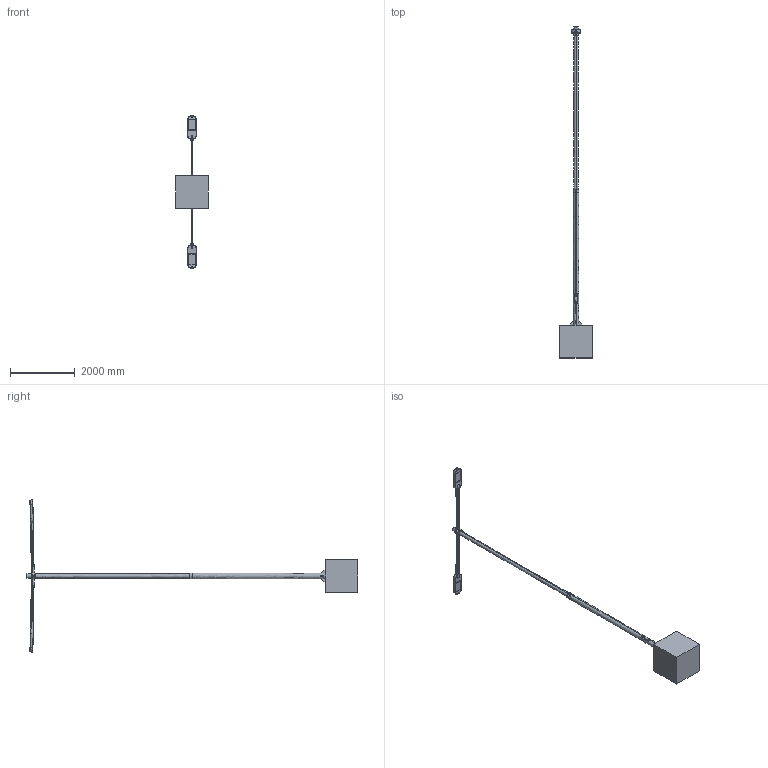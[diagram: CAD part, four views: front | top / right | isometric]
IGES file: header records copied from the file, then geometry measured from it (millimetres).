
Start section: SolidWorks IGES file using analytic representation for surfaces
Global section: file name: C:\SANTACOLE_PDM\Proyectos Catálogo\PROD-P11_014 -- CANDELA LED\6_Técnico comercial\3D WEB\IGES\Farola Candela LED 920cm 2S 2L MISMA ALTURA BRAZO LARGO.IGS; native system: SolidWorks 2013; preprocessor: SolidWorks 2013; author: jordi.munoz; date: 150527.164838; units: millimetre
Bounding box: 1000 x 10224.5 x 4702.53 mm (x, y, z)
Surface area: 19265550.8 mm2 (no closed solid volume)
Topology: 0 solids, 0 shells, 3453 faces, 32120 edges, 32078 vertices
Faces by surface type: bspline 2408, revolution 1045
